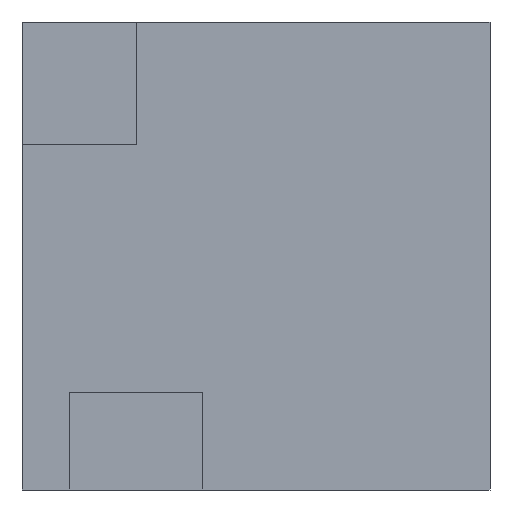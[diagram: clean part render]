
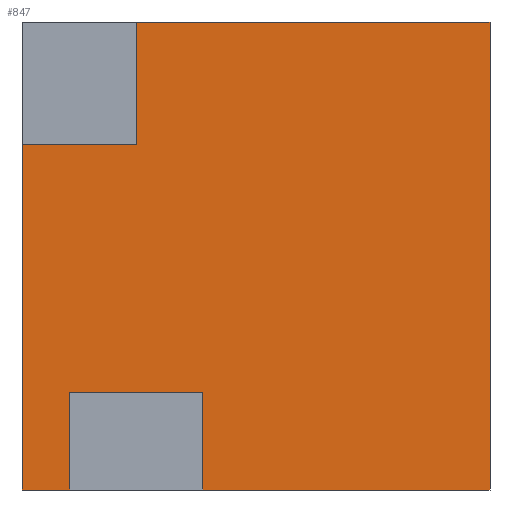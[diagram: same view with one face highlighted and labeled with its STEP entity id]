
A CAD part, front view. The second image highlights one B-rep face of the part: STEP entity #847.
In plain terms, the highlighted planar face has unit normal (0, -1, 0).
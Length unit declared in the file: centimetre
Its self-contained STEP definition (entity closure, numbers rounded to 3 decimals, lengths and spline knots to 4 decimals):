
#21 = ORIENTED_EDGE ( 'NONE', *, *, #424, .T. ) ;
#25 = VECTOR ( 'NONE', #612, 100. ) ;
#91 = ORIENTED_EDGE ( 'NONE', *, *, #280, .T. ) ;
#100 = VECTOR ( 'NONE', #739, 100. ) ;
#117 = VERTEX_POINT ( 'NONE', #844 ) ;
#124 = VERTEX_POINT ( 'NONE', #774 ) ;
#127 = DIRECTION ( 'NONE',  ( 0., 0., 1. ) ) ;
#131 = DIRECTION ( 'NONE',  ( 0., 1., 0. ) ) ;
#134 = DIRECTION ( 'NONE',  ( 0., 0., 1. ) ) ;
#136 = LINE ( 'NONE', #141, #682 ) ;
#141 = CARTESIAN_POINT ( 'NONE',  ( 243.7162, 0., 738.2524 ) ) ;
#156 = EDGE_CURVE ( 'NONE', #828, #726, #136, .T. ) ;
#165 = LINE ( 'NONE', #821, #530 ) ;
#179 = CARTESIAN_POINT ( 'NONE',  ( 1000., 0., 1000. ) ) ;
#188 = ORIENTED_EDGE ( 'NONE', *, *, #837, .F. ) ;
#213 = ORIENTED_EDGE ( 'NONE', *, *, #349, .T. ) ;
#219 = VERTEX_POINT ( 'NONE', #335 ) ;
#239 = DIRECTION ( 'NONE',  ( -1., 0., 0. ) ) ;
#250 = CARTESIAN_POINT ( 'NONE',  ( 243.7162, 0., 1000. ) ) ;
#280 = EDGE_CURVE ( 'NONE', #316, #219, #379, .T. ) ;
#307 = DIRECTION ( 'NONE',  ( 1., 0., 0. ) ) ;
#310 = EDGE_CURVE ( 'NONE', #548, #124, #601, .T. ) ;
#316 = VERTEX_POINT ( 'NONE', #330 ) ;
#318 = CARTESIAN_POINT ( 'NONE',  ( 0., 0., 0. ) ) ;
#330 = CARTESIAN_POINT ( 'NONE',  ( 386.5532, 0., 0. ) ) ;
#335 = CARTESIAN_POINT ( 'NONE',  ( 1000., 0., 0. ) ) ;
#342 = LINE ( 'NONE', #558, #701 ) ;
#349 = EDGE_CURVE ( 'NONE', #439, #117, #583, .T. ) ;
#368 = CARTESIAN_POINT ( 'NONE',  ( 0., 0., 1000. ) ) ;
#379 = LINE ( 'NONE', #667, #716 ) ;
#411 = EDGE_LOOP ( 'NONE', ( #560, #536, #860, #762, #91, #188, #602, #893, #21, #213 ) ) ;
#412 = DIRECTION ( 'NONE',  ( 0., 0., 1. ) ) ;
#416 = AXIS2_PLACEMENT_3D ( 'NONE', #760, #131, #127 ) ;
#424 = EDGE_CURVE ( 'NONE', #828, #439, #165, .T. ) ;
#432 = VECTOR ( 'NONE', #912, 100. ) ;
#439 = VERTEX_POINT ( 'NONE', #883 ) ;
#479 = CARTESIAN_POINT ( 'NONE',  ( 243.7162, 0., 738.2524 ) ) ;
#490 = CARTESIAN_POINT ( 'NONE',  ( 1000., 0., 1000. ) ) ;
#501 = EDGE_CURVE ( 'NONE', #726, #613, #902, .T. ) ;
#508 = VECTOR ( 'NONE', #239, 100. ) ;
#509 = VERTEX_POINT ( 'NONE', #676 ) ;
#530 = VECTOR ( 'NONE', #599, 100. ) ;
#536 = ORIENTED_EDGE ( 'NONE', *, *, #864, .F. ) ;
#543 = EDGE_CURVE ( 'NONE', #117, #509, #590, .T. ) ;
#548 = VERTEX_POINT ( 'NONE', #684 ) ;
#558 = CARTESIAN_POINT ( 'NONE',  ( 102.1414, 0., 0. ) ) ;
#560 = ORIENTED_EDGE ( 'NONE', *, *, #543, .T. ) ;
#583 = LINE ( 'NONE', #368, #100 ) ;
#590 = LINE ( 'NONE', #318, #25 ) ;
#597 = CARTESIAN_POINT ( 'NONE',  ( 0., 0., 1000. ) ) ;
#599 = DIRECTION ( 'NONE',  ( -1., 0., 0. ) ) ;
#601 = LINE ( 'NONE', #885, #508 ) ;
#602 = ORIENTED_EDGE ( 'NONE', *, *, #501, .F. ) ;
#612 = DIRECTION ( 'NONE',  ( 1., 0., 0. ) ) ;
#613 = VERTEX_POINT ( 'NONE', #179 ) ;
#620 = LINE ( 'NONE', #903, #814 ) ;
#667 = CARTESIAN_POINT ( 'NONE',  ( 0., 0., 0. ) ) ;
#676 = CARTESIAN_POINT ( 'NONE',  ( 102.1414, 0., 0. ) ) ;
#682 = VECTOR ( 'NONE', #412, 100. ) ;
#684 = CARTESIAN_POINT ( 'NONE',  ( 386.5532, 0., 208.8415 ) ) ;
#685 = LINE ( 'NONE', #490, #432 ) ;
#701 = VECTOR ( 'NONE', #919, 100. ) ;
#704 = FACE_OUTER_BOUND ( 'NONE', #411, .T. ) ;
#716 = VECTOR ( 'NONE', #307, 100. ) ;
#726 = VERTEX_POINT ( 'NONE', #250 ) ;
#739 = DIRECTION ( 'NONE',  ( 0., 0., -1. ) ) ;
#760 = CARTESIAN_POINT ( 'NONE',  ( 0., 0., 1000. ) ) ;
#762 = ORIENTED_EDGE ( 'NONE', *, *, #830, .F. ) ;
#765 = PLANE ( 'NONE',  #416 ) ;
#774 = CARTESIAN_POINT ( 'NONE',  ( 102.1414, 0., 208.8415 ) ) ;
#791 = VECTOR ( 'NONE', #887, 100. ) ;
#814 = VECTOR ( 'NONE', #134, 100. ) ;
#821 = CARTESIAN_POINT ( 'NONE',  ( 243.7162, 0., 738.2524 ) ) ;
#828 = VERTEX_POINT ( 'NONE', #479 ) ;
#830 = EDGE_CURVE ( 'NONE', #316, #548, #620, .T. ) ;
#837 = EDGE_CURVE ( 'NONE', #613, #219, #685, .T. ) ;
#844 = CARTESIAN_POINT ( 'NONE',  ( 0., 0., 0. ) ) ;
#847 = ADVANCED_FACE ( 'NONE', ( #704 ), #765, .F. ) ;
#860 = ORIENTED_EDGE ( 'NONE', *, *, #310, .F. ) ;
#864 = EDGE_CURVE ( 'NONE', #124, #509, #342, .T. ) ;
#883 = CARTESIAN_POINT ( 'NONE',  ( 0., 0., 738.2524 ) ) ;
#885 = CARTESIAN_POINT ( 'NONE',  ( 102.1414, 0., 208.8415 ) ) ;
#887 = DIRECTION ( 'NONE',  ( 1., 0., 0. ) ) ;
#893 = ORIENTED_EDGE ( 'NONE', *, *, #156, .F. ) ;
#902 = LINE ( 'NONE', #597, #791 ) ;
#903 = CARTESIAN_POINT ( 'NONE',  ( 386.5532, 0., 0. ) ) ;
#912 = DIRECTION ( 'NONE',  ( 0., 0., -1. ) ) ;
#919 = DIRECTION ( 'NONE',  ( 0., 0., -1. ) ) ;
